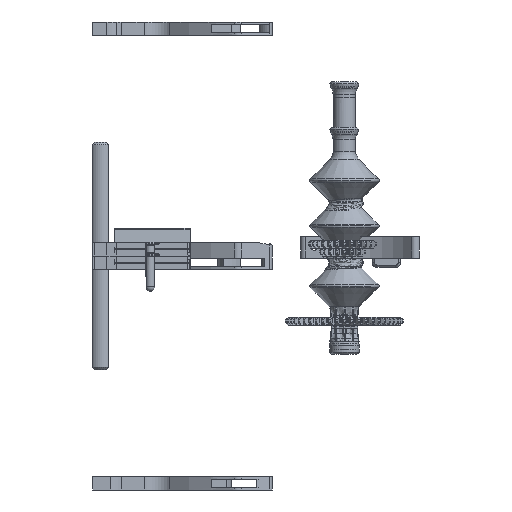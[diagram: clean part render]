
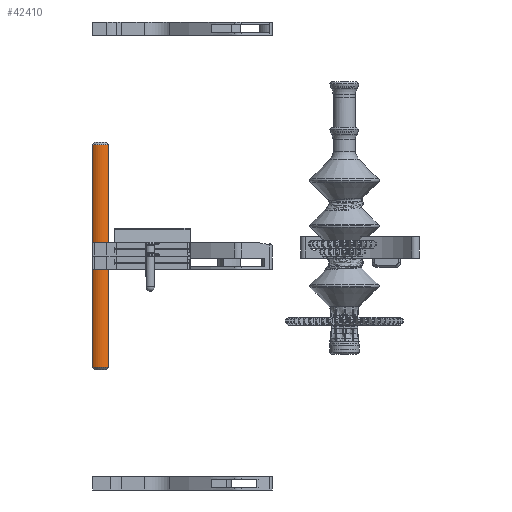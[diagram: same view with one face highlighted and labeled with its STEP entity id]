
A CAD part, left-side view. The second image highlights one B-rep face of the part: STEP entity #42410.
In plain terms, the highlighted cylindrical face has radius 10 mm (diameter 20 mm), a partial arc.
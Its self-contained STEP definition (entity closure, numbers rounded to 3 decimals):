
#4266=CYLINDRICAL_SURFACE('',#45852,10.);
#6463=FACE_OUTER_BOUND('',#8961,.T.);
#8961=EDGE_LOOP('',(#38419,#38420,#38421,#38422));
#11222=LINE('',#152737,#13570);
#11227=LINE('',#152775,#13575);
#13570=VECTOR('',#54541,10.);
#13575=VECTOR('',#54568,10.);
#15605=CIRCLE('',#45837,10.);
#15609=CIRCLE('',#45848,10.);
#19694=VERTEX_POINT('',#152714);
#19696=VERTEX_POINT('',#152723);
#19698=VERTEX_POINT('',#152735);
#19704=VERTEX_POINT('',#152765);
#25976=EDGE_CURVE('',#19696,#19694,#15605,.T.);
#25981=EDGE_CURVE('',#19696,#19698,#11222,.T.);
#25991=EDGE_CURVE('',#19704,#19698,#15609,.T.);
#25994=EDGE_CURVE('',#19704,#19694,#11227,.T.);
#38419=ORIENTED_EDGE('',*,*,#25976,.F.);
#38420=ORIENTED_EDGE('',*,*,#25981,.T.);
#38421=ORIENTED_EDGE('',*,*,#25991,.F.);
#38422=ORIENTED_EDGE('',*,*,#25994,.T.);
#42410=ADVANCED_FACE('',(#6463),#4266,.T.);
#45837=AXIS2_PLACEMENT_3D('',#152728,#54531,#54532);
#45848=AXIS2_PLACEMENT_3D('',#152770,#54560,#54561);
#45852=AXIS2_PLACEMENT_3D('',#152777,#54571,#54572);
#54531=DIRECTION('center_axis',(0.,0.,-1.));
#54532=DIRECTION('ref_axis',(-0.707,0.707,0.));
#54541=DIRECTION('',(0.,0.,1.));
#54560=DIRECTION('center_axis',(0.,0.,1.));
#54561=DIRECTION('ref_axis',(-0.707,0.707,0.));
#54568=DIRECTION('',(0.,0.,-1.));
#54571=DIRECTION('center_axis',(0.,0.,1.));
#54572=DIRECTION('ref_axis',(-0.707,0.707,0.));
#152714=CARTESIAN_POINT('',(-7.071,144.049,-98.));
#152723=CARTESIAN_POINT('',(-7.071,129.907,-98.));
#152728=CARTESIAN_POINT('Origin',(0.,136.978,
-98.));
#152735=CARTESIAN_POINT('',(-7.071,129.907,98.));
#152737=CARTESIAN_POINT('',(-7.071,129.907,0.));
#152765=CARTESIAN_POINT('',(-7.071,144.049,98.));
#152770=CARTESIAN_POINT('Origin',(0.,136.978,
98.));
#152775=CARTESIAN_POINT('',(-7.071,144.049,0.));
#152777=CARTESIAN_POINT('Origin',(0.,136.978,
0.));
